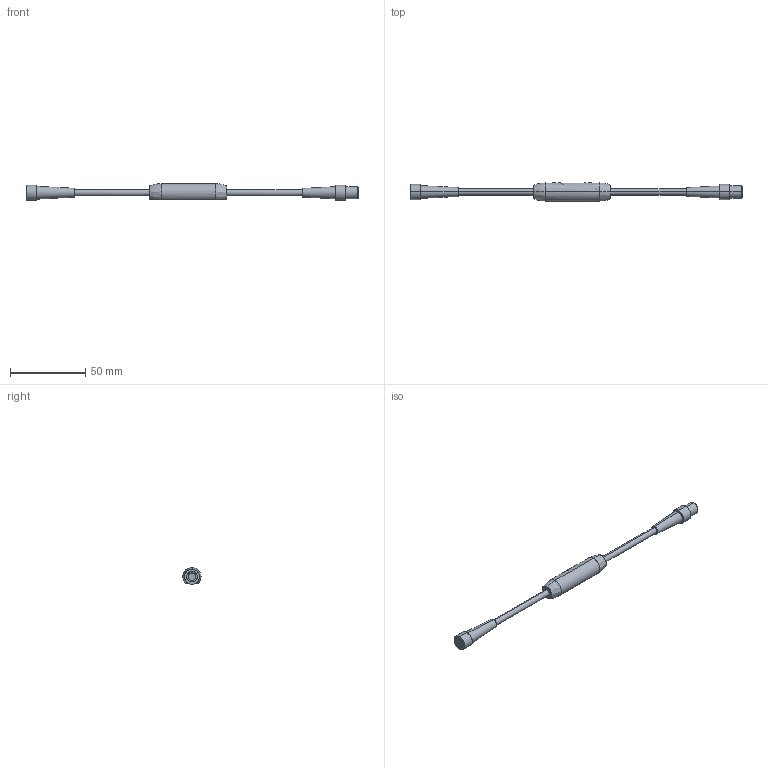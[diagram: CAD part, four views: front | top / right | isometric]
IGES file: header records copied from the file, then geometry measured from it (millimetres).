
Start section: Comment
Global section: file name: P_N_Converter_ESG32S.igs; native system:  By UGS Corp.; preprocessor: XPlus GENERIC/IGES 3.0; author: Author; organization: Title; date: 20100908.131646; units: millimetre
Bounding box: 220 x 12 x 11 mm (x, y, z)
Surface area: 5424 mm2 (no closed solid volume)
Topology: 0 solids, 0 shells, 50 faces, 210 edges, 210 vertices
Faces by surface type: bspline 50
